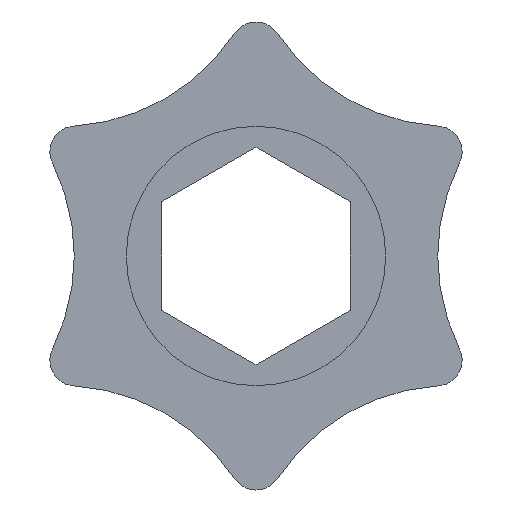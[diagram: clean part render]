
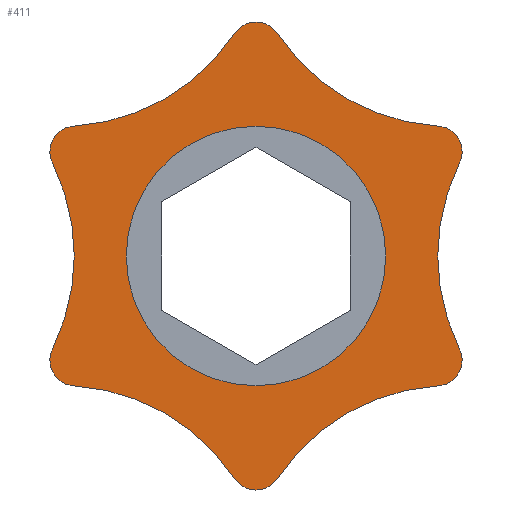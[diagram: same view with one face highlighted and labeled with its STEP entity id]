
A CAD part, front view. The second image highlights one B-rep face of the part: STEP entity #411.
In plain terms, the highlighted planar face has unit normal (0, -1, 0).
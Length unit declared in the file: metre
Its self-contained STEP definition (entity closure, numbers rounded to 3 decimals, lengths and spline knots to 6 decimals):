
#13=PLANE('',#473);
#143=ORIENTED_EDGE('',*,*,#235,.F.);
#144=ORIENTED_EDGE('',*,*,#198,.F.);
#145=ORIENTED_EDGE('',*,*,#202,.T.);
#146=ORIENTED_EDGE('',*,*,#205,.F.);
#147=ORIENTED_EDGE('',*,*,#208,.T.);
#148=ORIENTED_EDGE('',*,*,#211,.F.);
#149=ORIENTED_EDGE('',*,*,#214,.T.);
#150=ORIENTED_EDGE('',*,*,#217,.F.);
#151=ORIENTED_EDGE('',*,*,#220,.T.);
#152=ORIENTED_EDGE('',*,*,#223,.F.);
#153=ORIENTED_EDGE('',*,*,#226,.T.);
#154=ORIENTED_EDGE('',*,*,#229,.F.);
#155=ORIENTED_EDGE('',*,*,#232,.T.);
#198=EDGE_CURVE('',#256,#257,#296,.T.);
#202=EDGE_CURVE('',#256,#260,#298,.T.);
#205=EDGE_CURVE('',#262,#260,#300,.T.);
#208=EDGE_CURVE('',#262,#264,#302,.T.);
#211=EDGE_CURVE('',#266,#264,#304,.T.);
#214=EDGE_CURVE('',#266,#268,#306,.T.);
#217=EDGE_CURVE('',#270,#268,#308,.T.);
#220=EDGE_CURVE('',#270,#272,#310,.T.);
#223=EDGE_CURVE('',#274,#272,#312,.T.);
#226=EDGE_CURVE('',#274,#276,#314,.T.);
#229=EDGE_CURVE('',#278,#276,#316,.T.);
#232=EDGE_CURVE('',#278,#257,#318,.T.);
#235=EDGE_CURVE('',#281,#281,#321,.T.);
#256=VERTEX_POINT('',#626);
#257=VERTEX_POINT('',#627);
#260=VERTEX_POINT('',#635);
#262=VERTEX_POINT('',#641);
#264=VERTEX_POINT('',#647);
#266=VERTEX_POINT('',#653);
#268=VERTEX_POINT('',#659);
#270=VERTEX_POINT('',#665);
#272=VERTEX_POINT('',#671);
#274=VERTEX_POINT('',#677);
#276=VERTEX_POINT('',#683);
#278=VERTEX_POINT('',#689);
#281=VERTEX_POINT('',#701);
#296=CIRCLE('',#436,0.008);
#298=CIRCLE('',#439,0.001);
#300=CIRCLE('',#442,0.008);
#302=CIRCLE('',#445,0.001);
#304=CIRCLE('',#448,0.008);
#306=CIRCLE('',#451,0.001);
#308=CIRCLE('',#454,0.008);
#310=CIRCLE('',#457,0.001);
#312=CIRCLE('',#460,0.008);
#314=CIRCLE('',#463,0.001);
#316=CIRCLE('',#466,0.008);
#318=CIRCLE('',#469,0.001);
#321=CIRCLE('',#474,0.005);
#338=EDGE_LOOP('',(#143));
#339=EDGE_LOOP('',(#144,#145,#146,#147,#148,#149,#150,#151,#152,#153,#154,
#155));
#368=FACE_BOUND('',#338,.T.);
#369=FACE_BOUND('',#339,.T.);
#411=ADVANCED_FACE('',(#368,#369),#13,.T.);
#436=AXIS2_PLACEMENT_3D('',#625,#491,#492);
#439=AXIS2_PLACEMENT_3D('',#634,#499,#500);
#442=AXIS2_PLACEMENT_3D('',#640,#506,#507);
#445=AXIS2_PLACEMENT_3D('',#646,#513,#514);
#448=AXIS2_PLACEMENT_3D('',#652,#520,#521);
#451=AXIS2_PLACEMENT_3D('',#658,#527,#528);
#454=AXIS2_PLACEMENT_3D('',#664,#534,#535);
#457=AXIS2_PLACEMENT_3D('',#670,#541,#542);
#460=AXIS2_PLACEMENT_3D('',#676,#548,#549);
#463=AXIS2_PLACEMENT_3D('',#682,#555,#556);
#466=AXIS2_PLACEMENT_3D('',#688,#562,#563);
#469=AXIS2_PLACEMENT_3D('',#694,#569,#570);
#473=AXIS2_PLACEMENT_3D('',#699,#577,#578);
#474=AXIS2_PLACEMENT_3D('',#700,#579,#580);
#491=DIRECTION('',(0.,-1.,0.));
#492=DIRECTION('',(0.,0.,-1.));
#499=DIRECTION('',(0.,-1.,0.));
#500=DIRECTION('',(0.,0.,-1.));
#506=DIRECTION('',(0.,-1.,0.));
#507=DIRECTION('',(0.,0.,-1.));
#513=DIRECTION('',(0.,-1.,0.));
#514=DIRECTION('',(0.,0.,-1.));
#520=DIRECTION('',(0.,-1.,0.));
#521=DIRECTION('',(0.,0.,-1.));
#527=DIRECTION('',(0.,-1.,0.));
#528=DIRECTION('',(0.,0.,-1.));
#534=DIRECTION('',(0.,-1.,0.));
#535=DIRECTION('',(0.,0.,-1.));
#541=DIRECTION('',(0.,-1.,0.));
#542=DIRECTION('',(0.,0.,-1.));
#548=DIRECTION('',(0.,-1.,0.));
#549=DIRECTION('',(0.,0.,-1.));
#555=DIRECTION('',(0.,-1.,0.));
#556=DIRECTION('',(0.,0.,-1.));
#562=DIRECTION('',(0.,-1.,0.));
#563=DIRECTION('',(0.,0.,-1.));
#569=DIRECTION('',(0.,-1.,0.));
#570=DIRECTION('',(0.,0.,-1.));
#577=DIRECTION('',(0.,-1.,0.));
#578=DIRECTION('',(1.,0.,0.));
#579=DIRECTION('',(0.,-1.,0.));
#580=DIRECTION('',(0.,0.,-1.));
#625=CARTESIAN_POINT('',(-0.0075,-0.01,0.01299));
#626=CARTESIAN_POINT('',(-0.007004,-0.01,0.005006));
#627=CARTESIAN_POINT('',(-0.000833,-0.01,0.008568));
#634=CARTESIAN_POINT('',(-0.006942,-0.01,0.004008));
#635=CARTESIAN_POINT('',(-0.007837,-0.01,0.003562));
#640=CARTESIAN_POINT('',(-0.015,-0.01,0.));
#641=CARTESIAN_POINT('',(-0.007837,-0.01,-0.003562));
#646=CARTESIAN_POINT('',(-0.006942,-0.01,-0.004008));
#647=CARTESIAN_POINT('',(-0.007004,-0.01,-0.005006));
#652=CARTESIAN_POINT('',(-0.0075,-0.01,-0.01299));
#653=CARTESIAN_POINT('',(-0.000833,-0.01,-0.008568));
#658=CARTESIAN_POINT('',(0.,-0.01,-0.008015));
#659=CARTESIAN_POINT('',(0.000833,-0.01,-0.008568));
#664=CARTESIAN_POINT('',(0.0075,-0.01,-0.01299));
#665=CARTESIAN_POINT('',(0.007004,-0.01,-0.005006));
#670=CARTESIAN_POINT('',(0.006942,-0.01,-0.004008));
#671=CARTESIAN_POINT('',(0.007837,-0.01,-0.003562));
#676=CARTESIAN_POINT('',(0.015,-0.01,0.));
#677=CARTESIAN_POINT('',(0.007837,-0.01,0.003562));
#682=CARTESIAN_POINT('',(0.006942,-0.01,0.004008));
#683=CARTESIAN_POINT('',(0.007004,-0.01,0.005006));
#688=CARTESIAN_POINT('',(0.0075,-0.01,0.01299));
#689=CARTESIAN_POINT('',(0.000833,-0.01,0.008568));
#694=CARTESIAN_POINT('',(0.,-0.01,0.008015));
#699=CARTESIAN_POINT('',(0.,-0.01,0.));
#700=CARTESIAN_POINT('',(0.,-0.01,0.));
#701=CARTESIAN_POINT('',(0.,-0.01,-0.005));
